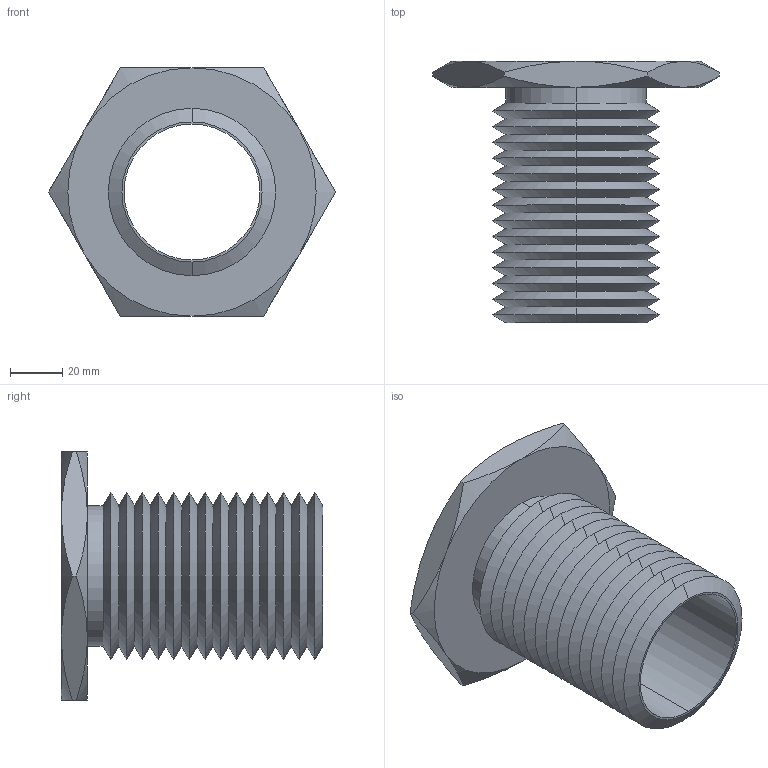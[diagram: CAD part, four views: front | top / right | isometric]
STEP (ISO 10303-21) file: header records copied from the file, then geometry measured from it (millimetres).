
FILE_DESCRIPTION (( 'STEP AP203' ), '1' );
FILE_NAME ('63302.W0064_M52x5.step', '2013-12-08T11:27:49', ( 'User' ), ( '' ), 'SwSTEP 2.0', 'SolidWorks 2009', '' );
FILE_SCHEMA (( 'CONFIG_CONTROL_DESIGN' ));
Length unit declared in the file: millimetre
Products named in the file (1): 63302.W0064_M52x5
Bounding box: 109.7 x 100 x 95 mm (x, y, z)
Volume: 104018.2 mm3; surface area: 61879.3 mm2
Topology: 1 solids, 1 shells, 83 faces, 170 edges, 90 vertices
Faces by surface type: cone 70, plane 9, cylinder 4
Entity records: 2371 total; most frequent: CARTESIAN_POINT 560, DIRECTION 392, ORIENTED_EDGE 340, EDGE_CURVE 170, AXIS2_PLACEMENT_3D 162, VERTEX_POINT 90, EDGE_LOOP 86, ADVANCED_FACE 83
